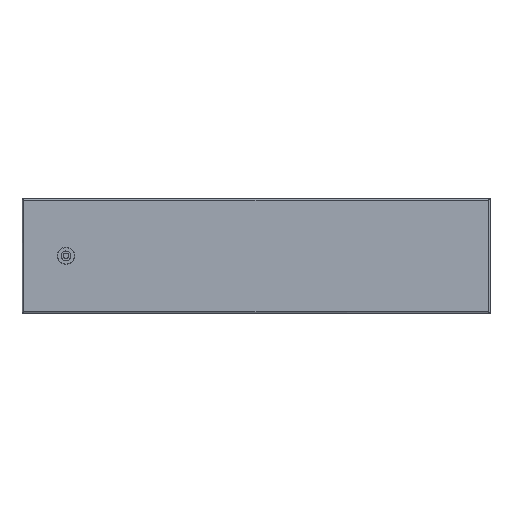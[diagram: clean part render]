
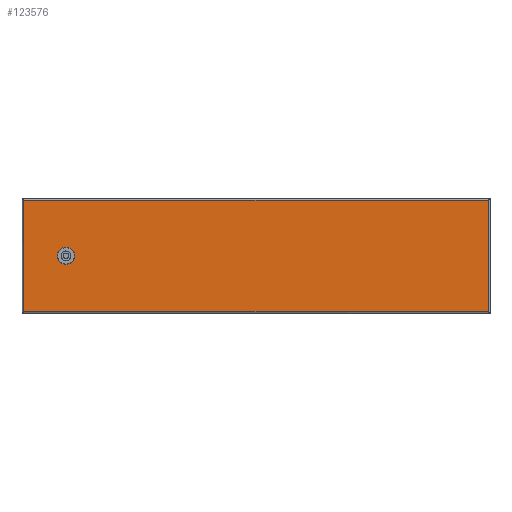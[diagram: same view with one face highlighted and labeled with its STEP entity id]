
A CAD part, top view. The second image highlights one B-rep face of the part: STEP entity #123576.
In plain terms, the highlighted planar face has unit normal (0, 0, 1).
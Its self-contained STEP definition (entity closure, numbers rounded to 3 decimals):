
#121261=CARTESIAN_POINT(' ',(791.2,192.2,0.));
#121266=DIRECTION(' ',(-1.,0.,0.));
#121271=VECTOR(' ',#121266,1.);
#121276=LINE('',#121261,#121271);
#121281=CARTESIAN_POINT(' ',(791.2,192.2,0.));
#121282=VERTEX_POINT(' ',#121281);
#121286=CARTESIAN_POINT(' ',(2.8,192.2,0.));
#121287=VERTEX_POINT(' ',#121286);
#121291=EDGE_CURVE(' ',#121282,#121287,#121276,.T.);
#123436=DIRECTION(' ',(-0.,-0.,1.));
#123441=CARTESIAN_POINT(' ',(791.2,2.8,0.));
#123446=DIRECTION(' ',(0.,1.,0.));
#123451=AXIS2_PLACEMENT_3D(' ',#123441,#123436,#123446);
#123456=PLANE('NONE',#123451);
#123461=CARTESIAN_POINT(' ',(2.8,2.8,0.));
#123466=DIRECTION(' ',(1.,0.,0.));
#123471=VECTOR(' ',#123466,1.);
#123476=LINE('',#123461,#123471);
#123481=CARTESIAN_POINT(' ',(2.8,2.8,0.));
#123482=VERTEX_POINT(' ',#123481);
#123486=CARTESIAN_POINT(' ',(791.2,2.8,0.));
#123487=VERTEX_POINT(' ',#123486);
#123491=EDGE_CURVE(' ',#123482,#123487,#123476,.T.);
#123496=ORIENTED_EDGE(' ',*,*,#123491,.T.);
#123501=CARTESIAN_POINT(' ',(791.2,192.2,0.));
#123506=DIRECTION(' ',(0.,-1.,0.));
#123511=VECTOR(' ',#123506,1.);
#123516=LINE('',#123501,#123511);
#123521=EDGE_CURVE(' ',#121282,#123487,#123516,.T.);
#123526=ORIENTED_EDGE(' ',*,*,#123521,.F.);
#123531=ORIENTED_EDGE(' ',*,*,#121291,.T.);
#123536=CARTESIAN_POINT(' ',(2.8,192.2,0.));
#123541=DIRECTION(' ',(0.,-1.,0.));
#123546=VECTOR(' ',#123541,1.);
#123551=LINE('',#123536,#123546);
#123556=EDGE_CURVE(' ',#121287,#123482,#123551,.T.);
#123561=ORIENTED_EDGE(' ',*,*,#123556,.T.);
#123566=EDGE_LOOP(' ',(#123496,#123526,#123531,#123561));
#123571=FACE_OUTER_BOUND(' ',#123566,.T.);
#123576=ADVANCED_FACE('NONE',(#123571),#123456,.T.);
